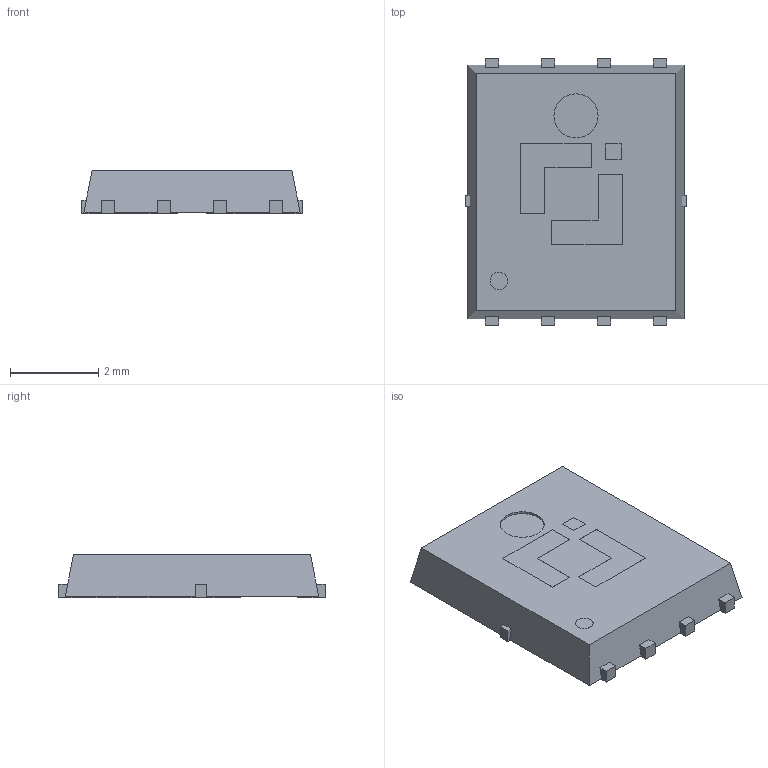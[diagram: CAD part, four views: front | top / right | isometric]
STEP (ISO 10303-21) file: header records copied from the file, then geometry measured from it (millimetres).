
FILE_DESCRIPTION(('HOOPS Exchange Step'),'2;1');
FILE_NAME('C:\Users\18121\AppData\Local\Packages\Shapr3D.Shapr3D_dvv5p1vgwv6mp\TempState\export\temp_export','2025-12-05T10:40:12+08:00',('18121'),('Shapr3D Limited'),'HOOPS Exchange 2025.7','Shapr3D','Authorized');
FILE_SCHEMA( ('AP242_MANAGED_MODEL_BASED_3D_ENGINEERING_MIM_LF {1 0 10303 442 1 1 4}') );
Length unit declared in the file: millimetre
Products named in the file (1): root
Bounding box: 5.02 x 6.05 x 0.98 mm (x, y, z)
Volume: 25.4 mm3; surface area: 75.4 mm2
Topology: 1 solids, 1 shells, 165 faces, 476 edges, 318 vertices
Faces by surface type: plane 163, cylinder 2
Full cylindrical faces by diameter (mm): 0.4 x1, 1 x1
Entity records: 5402 total; most frequent: CARTESIAN_POINT 961, ORIENTED_EDGE 952, DIRECTION 816, EDGE_CURVE 476, VECTOR 470, LINE 470, VERTEX_POINT 318, AXIS2_PLACEMENT_3D 173
